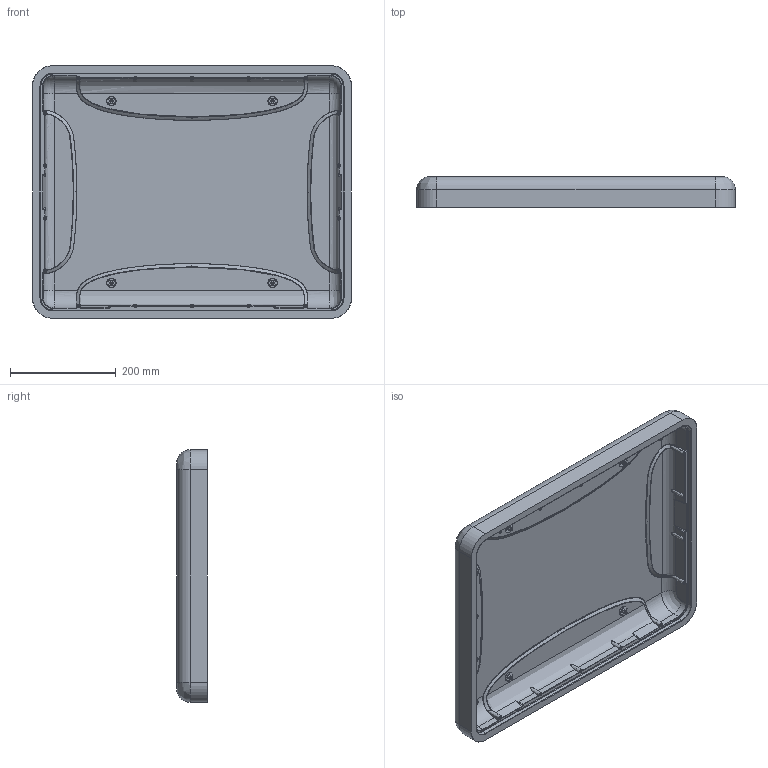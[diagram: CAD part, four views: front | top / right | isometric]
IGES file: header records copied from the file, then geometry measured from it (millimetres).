
Start section: SolidWorks IGES file using analytic representation for surfaces
Global section: file name: X:\Share\NANUK\Solidworks\3D\Cases\960\4 - 3D FILES\4 - Inner Surfaces\960_top_INNER SURFACES.IGS; native system: SolidWorks 2019; preprocessor: SolidWorks 2019; author: bcoley; date: 200703.093041; units: inch
Bounding box: 602.99 x 57.84 x 477.52 mm (x, y, z)
Surface area: 760065.9 mm2 (no closed solid volume)
Topology: 0 solids, 0 shells, 921 faces, 13538 edges, 13533 vertices
Faces by surface type: bspline 724, revolution 197
